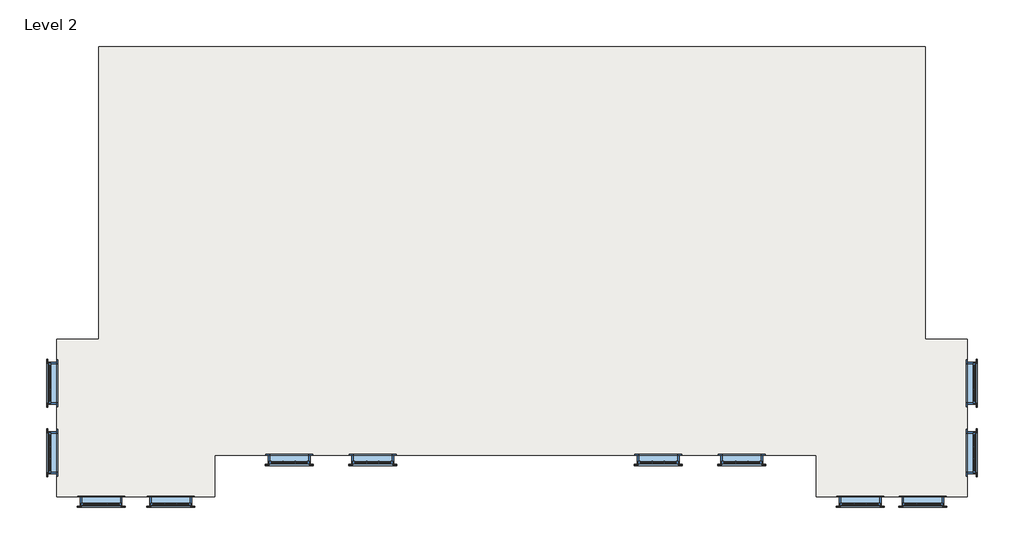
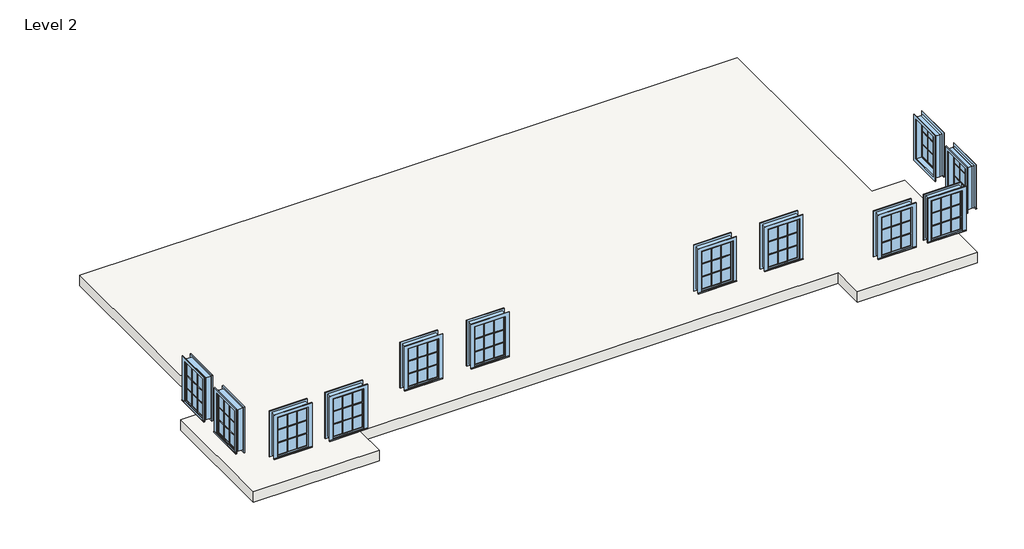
# One storey: 12 windows, 1 slab.
"""IFC4 building model written with IfcOpenShell, lengths in millimetres."""

import ifcopenshell
import ifcopenshell.guid

model = None  # the IFC model being written
_history = None  # IfcOwnerHistory: only IFC2X3 demands one
_inside = {}  # id of a spatial element -> (the spatial element, [elements in it])
_under = {}  # id of a project, library or spatial element -> (it, [spatial elements below it])
_declared = {}  # id of a project -> (the project, [libraries it declares])
_typed = {}  # id of a type object -> (the type object, [elements of that type])
_made_of = {}  # id of a material, layer set ... -> (it, [elements and type objects made of it])


def new_model(schema):
    """Start an empty IFC model of exactly this schema.

    Asked for "IFC4X3", IfcOpenShell would pick the latest addendum, in which some entities
    have other attributes; the version numbers below select the first issue.
    IFC2X3 requires an IfcOwnerHistory on every rooted entity: one is made here for all.
    """
    global model, _history
    if schema == "IFC4X3":
        model = ifcopenshell.file(schema_version=(4, 3, 0, 0))
    else:
        model = ifcopenshell.file(schema=schema)
    _inside.clear()
    _under.clear()
    _declared.clear()
    _typed.clear()
    _made_of.clear()
    _history = None
    if model.schema == "IFC2X3":
        org = make("IfcOrganization", Name="unknown")
        user = make(
            "IfcPersonAndOrganization",
            ThePerson=make("IfcPerson", FamilyName="unknown"),
            TheOrganization=org,
        )
        app = make(
            "IfcApplication",
            ApplicationDeveloper=org,
            Version="unknown",
            ApplicationFullName="unknown",
            ApplicationIdentifier="unknown",
        )
        _history = make(
            "IfcOwnerHistory",
            OwningUser=user,
            OwningApplication=app,
            ChangeAction="ADDED",
            CreationDate=0,
        )
    return model


def make(cls, **values):
    """One entity of the class cls with the attributes given. An attribute that is None is left unset."""
    return model.create_entity(
        cls, **{name: value for name, value in values.items() if value is not None}
    )


def rooted(cls, **values):
    """An entity with a GlobalId (a new one), such as an element, a storey or a relation."""
    return make(cls, GlobalId=ifcopenshell.guid.new(), OwnerHistory=_history, **values)


def si_unit(unit_type, name, prefix=None):
    """IfcSIUnit, for example si_unit("LENGTHUNIT", "METRE", prefix="MILLI")."""
    return make("IfcSIUnit", UnitType=unit_type, Prefix=prefix, Name=name)


def assignment(units):
    """IfcUnitAssignment: the units of a project."""
    return None if units is None else make("IfcUnitAssignment", Units=units)


def point(xyz):
    """IfcCartesianPoint."""
    return None if xyz is None else make("IfcCartesianPoint", Coordinates=xyz)


def direction(xyz):
    """IfcDirection."""
    return None if xyz is None else make("IfcDirection", DirectionRatios=xyz)


def frame(location, z_axis=None, x_axis=None):
    """IfcAxis2Placement3D, a coordinate frame: its origin and axes. An axis left out is left unset."""
    return make(
        "IfcAxis2Placement3D",
        Location=point(location),
        Axis=direction(z_axis),
        RefDirection=direction(x_axis),
    )


def origin():
    """The frame at (0, 0, 0) with its axes left unset."""
    return frame((0.0, 0.0, 0.0))


def place(relative_to, where):
    """IfcLocalPlacement: puts the frame where relative to a parent placement (None: the world)."""
    return make(
        "IfcLocalPlacement", PlacementRelTo=relative_to, RelativePlacement=where
    )


def context(
    kind, dimensions, precision=None, world=None, true_north=None, identifier=None
):
    """IfcGeometricRepresentationContext, for example the 3D "Model" context."""
    return make(
        "IfcGeometricRepresentationContext",
        ContextIdentifier=identifier,
        ContextType=kind,
        CoordinateSpaceDimension=dimensions,
        Precision=precision,
        WorldCoordinateSystem=world,
        TrueNorth=true_north,
    )


def project(units=None, contexts=None):
    """IfcProject with its units and contexts."""
    return rooted(
        "IfcProject",
        Name="project",
        RepresentationContexts=contexts,
        UnitsInContext=assignment(units),
    )


def spatial(cls, under=None, at=None, **own):
    """A site, building, storey or space (cls), placed at a placement, below another one or the project."""
    s = rooted(cls, ObjectPlacement=at, **own)
    if under is not None:
        _under.setdefault(under.id(), (under, []))[1].append(s)
    return s


def polyline(points):
    """IfcPolyline through the points."""
    return make("IfcPolyline", Points=[point(p) for p in points])


def outline(outer, holes=None, kind="AREA"):
    """IfcArbitraryClosedProfileDef: a profile drawn as a closed curve; with holes, ...WithVoids."""
    if holes is None:
        return make("IfcArbitraryClosedProfileDef", ProfileType=kind, OuterCurve=outer)
    return make(
        "IfcArbitraryProfileDefWithVoids",
        ProfileType=kind,
        OuterCurve=outer,
        InnerCurves=holes,
    )


def extrude(swept, where, along, depth):
    """IfcExtrudedAreaSolid: the profile swept, set in the frame where, extruded along a direction by depth."""
    return make(
        "IfcExtrudedAreaSolid",
        SweptArea=swept,
        Position=where,
        ExtrudedDirection=direction(along),
        Depth=depth,
    )


def shape(context_of_items, identifier, shape_type, items):
    """IfcShapeRepresentation: the items that make up one representation, for example the "Body"."""
    return make(
        "IfcShapeRepresentation",
        ContextOfItems=context_of_items,
        RepresentationIdentifier=identifier,
        RepresentationType=shape_type,
        Items=items,
    )


def source(mapping_origin, context_of_items, identifier, shape_type, items):
    """IfcRepresentationMap: a shape defined once, which mapped items show again and again."""
    return make(
        "IfcRepresentationMap",
        MappingOrigin=mapping_origin,
        MappedRepresentation=shape(context_of_items, identifier, shape_type, items),
    )


def transform(
    local_origin,
    x_axis=None,
    y_axis=None,
    z_axis=None,
    scale=None,
    scale2=None,
    scale3=None,
    uniform=True,
):
    """IfcCartesianTransformationOperator3D, or its non-uniform kind. x_axis, y_axis, z_axis: its Axis1, 2, 3."""
    if uniform:
        return make(
            "IfcCartesianTransformationOperator3D",
            Axis1=direction(x_axis),
            Axis2=direction(y_axis),
            LocalOrigin=point(local_origin),
            Scale=scale,
            Axis3=direction(z_axis),
        )
    return make(
        "IfcCartesianTransformationOperator3DnonUniform",
        Axis1=direction(x_axis),
        Axis2=direction(y_axis),
        LocalOrigin=point(local_origin),
        Scale=scale,
        Axis3=direction(z_axis),
        Scale2=scale2,
        Scale3=scale3,
    )


def mapped(mapping_source, mapping_target):
    """IfcMappedItem: shows the shape of a source again, moved by a transform."""
    return make(
        "IfcMappedItem", MappingSource=mapping_source, MappingTarget=mapping_target
    )


def made_of(thing, what):
    """Note that an element or type object is made of a material, layer set ...; save() writes the relation."""
    if what is not None:
        _made_of.setdefault(what.id(), (what, []))[1].append(thing)
    return thing


def element(
    cls,
    number,
    at=None,
    inside=None,
    cuts=None,
    type_object=None,
    material=None,
    context=None,
    identifier="Body",
    shape_type=None,
    held_by="IfcProductDefinitionShape",
    body=None,
    shapes=None,
    **own,
):
    """One element of the class cls, such as IfcWall. Its Tag is "e" and its number.

    at: its placement. inside: the storey or other place that contains it. cuts: it is an
    opening in that element (IfcRelVoidsElement). A single representation is given by context,
    identifier, shape_type and body (its items); several are given by shapes. held_by: the class
    of the entity that holds the representations. save() writes the other relations.
    """
    e = rooted(cls, Tag="e%d" % number, ObjectPlacement=at, **own)
    if body is not None:
        shapes = [shape(context, identifier, shape_type, body)]
    if shapes is not None:
        e.Representation = make(held_by, Representations=shapes)
    if inside is not None:
        _inside.setdefault(inside.id(), (inside, []))[1].append(e)
    if cuts is not None:
        rooted(
            "IfcRelVoidsElement", RelatingBuildingElement=cuts, RelatedOpeningElement=e
        )
    if type_object is not None:
        _typed.setdefault(type_object.id(), (type_object, []))[1].append(e)
    return made_of(e, material)


def aggregate(whole, parts):
    """IfcRelAggregates: a whole, such as a stair, and the parts it consists of."""
    return rooted("IfcRelAggregates", RelatingObject=whole, RelatedObjects=parts)


def save(model, path):
    """Write the relations noted so far, then the file.

    IfcRelAggregates (storeys below a building ...), IfcRelContainedInSpatialStructure (elements
    in a storey), IfcRelDefinesByType, IfcRelAssociatesMaterial and IfcRelDeclares: one each for
    every whole, place, type object, material and project.
    """
    for whole, parts in _under.values():
        aggregate(whole, parts)
    for where, things in _inside.values():
        rooted(
            "IfcRelContainedInSpatialStructure",
            RelatedElements=things,
            RelatingStructure=where,
        )
    for kind, things in _typed.values():
        rooted("IfcRelDefinesByType", RelatedObjects=things, RelatingType=kind)
    for what, things in _made_of.values():
        rooted("IfcRelAssociatesMaterial", RelatedObjects=things, RelatingMaterial=what)
    for by, libraries in _declared.values():
        rooted("IfcRelDeclares", RelatingContext=by, RelatedDefinitions=libraries)
    model.write(path)


def casement_3x3_with_trim_29c06734(model_context):
    return source(origin(), model_context, "Body", "SweptSolid", [
        extrude(outline(polyline([(-527.05, 127.0), (527.05, 127.0), (527.05, 101.6), (-527.05, 101.6), (-527.05, 127.0)])), frame((0.0, 0.0, 914.4), z_axis=(0.0, 0.0, 1.0), x_axis=(1.0, 0.0, 0.0)), (0.0, 0.0, 1.0), 19.05),
        extrude(outline(polyline([(2114.55, -438.15), (2114.55, 438.15), (933.45, 438.15), (933.45, 527.05), (2203.45, 527.05), (2203.45, -527.05), (933.45, -527.05), (933.45, -438.15), (2114.55, -438.15)])), frame((0.0, 101.6, 0.0), z_axis=(0.0, 1.0, 0.0), x_axis=(0.0, 0.0, 1.0)), (0.0, 0.0, 1.0), 12.7),
        extrude(outline(polyline([(143.9333333, 66.675), (393.7, 66.675), (393.7, 53.975), (143.9333333, 53.975), (143.9333333, 66.675)])), frame((0.0, 0.0, 1718.7333333), z_axis=(0.0, 0.0, 1.0), x_axis=(1.0, 0.0, 0.0)), (0.0, 0.0, 1.0), 351.3666667),
        extrude(outline(polyline([(-124.8833333, 66.675), (124.8833333, 66.675), (124.8833333, 53.975), (-124.8833333, 53.975), (-124.8833333, 66.675)])), frame((0.0, 0.0, 1718.7333333), z_axis=(0.0, 0.0, 1.0), x_axis=(1.0, 0.0, 0.0)), (0.0, 0.0, 1.0), 351.3666667),
        extrude(outline(polyline([(-393.7, 66.675), (-143.9333333, 66.675), (-143.9333333, 53.975), (-393.7, 53.975), (-393.7, 66.675)])), frame((0.0, 0.0, 1718.7333333), z_axis=(0.0, 0.0, 1.0), x_axis=(1.0, 0.0, 0.0)), (0.0, 0.0, 1.0), 351.3666667),
        extrude(outline(polyline([(-393.7, 66.675), (-143.9333333, 66.675), (-143.9333333, 53.975), (-393.7, 53.975), (-393.7, 66.675)])), frame((0.0, 0.0, 1348.3166667), z_axis=(0.0, 0.0, 1.0), x_axis=(1.0, 0.0, 0.0)), (0.0, 0.0, 1.0), 351.3666667),
        extrude(outline(polyline([(-124.8833333, 66.675), (124.8833333, 66.675), (124.8833333, 53.975), (-124.8833333, 53.975), (-124.8833333, 66.675)])), frame((0.0, 0.0, 1348.3166667), z_axis=(0.0, 0.0, 1.0), x_axis=(1.0, 0.0, 0.0)), (0.0, 0.0, 1.0), 351.3666667),
        extrude(outline(polyline([(143.9333333, 66.675), (393.7, 66.675), (393.7, 53.975), (143.9333333, 53.975), (143.9333333, 66.675)])), frame((0.0, 0.0, 1348.3166667), z_axis=(0.0, 0.0, 1.0), x_axis=(1.0, 0.0, 0.0)), (0.0, 0.0, 1.0), 351.3666667),
        extrude(outline(polyline([(143.9333333, 66.675), (393.7, 66.675), (393.7, 53.975), (143.9333333, 53.975), (143.9333333, 66.675)])), frame((0.0, 0.0, 977.9), z_axis=(0.0, 0.0, 1.0), x_axis=(1.0, 0.0, 0.0)), (0.0, 0.0, 1.0), 351.3666667),
        extrude(outline(polyline([(-124.8833333, 66.675), (124.8833333, 66.675), (124.8833333, 53.975), (-124.8833333, 53.975), (-124.8833333, 66.675)])), frame((0.0, 0.0, 977.9), z_axis=(0.0, 0.0, 1.0), x_axis=(1.0, 0.0, 0.0)), (0.0, 0.0, 1.0), 351.3666667),
        extrude(outline(polyline([(-393.7, 66.675), (-143.9333333, 66.675), (-143.9333333, 53.975), (-393.7, 53.975), (-393.7, 66.675)])), frame((0.0, 0.0, 977.9), z_axis=(0.0, 0.0, 1.0), x_axis=(1.0, 0.0, 0.0)), (0.0, 0.0, 1.0), 351.3666667),
        extrude(outline(polyline([(2190.75, 514.35), (2190.75, -514.35), (857.25, -514.35), (857.25, 514.35), (2190.75, 514.35)]), holes=[polyline([(2101.85, 425.45), (946.15, 425.45), (946.15, -425.45), (2101.85, -425.45), (2101.85, 425.45)])]), frame((0.0, -120.65, 0.0), z_axis=(0.0, 1.0, 0.0), x_axis=(0.0, 0.0, 1.0)), (0.0, 0.0, 1.0), 19.05),
        extrude(outline(polyline([(2114.55, -438.15), (933.45, -438.15), (933.45, 438.15), (2114.55, 438.15), (2114.55, -438.15)]), holes=[polyline([(2070.1, -143.9333333), (1718.7333333, -143.9333333), (1718.7333333, -393.7), (2070.1, -393.7), (2070.1, -143.9333333)]), polyline([(1699.6833333, -143.9333333), (1348.3166667, -143.9333333), (1348.3166667, -393.7), (1699.6833333, -393.7), (1699.6833333, -143.9333333)]), polyline([(1329.2666667, -143.9333333), (977.9, -143.9333333), (977.9, -393.7), (1329.2666667, -393.7), (1329.2666667, -143.9333333)]), polyline([(2070.1, 124.8833333), (1718.7333333, 124.8833333), (1718.7333333, -124.8833333), (2070.1, -124.8833333), (2070.1, 124.8833333)]), polyline([(1699.6833333, 124.8833333), (1348.3166667, 124.8833333), (1348.3166667, -124.8833333), (1699.6833333, -124.8833333), (1699.6833333, 124.8833333)]), polyline([(1329.2666667, 124.8833333), (977.9, 124.8833333), (977.9, -124.8833333), (1329.2666667, -124.8833333), (1329.2666667, 124.8833333)]), polyline([(2070.1, 393.7), (1718.7333333, 393.7), (1718.7333333, 143.9333333), (2070.1, 143.9333333), (2070.1, 393.7)]), polyline([(1699.6833333, 393.7), (1348.3166667, 393.7), (1348.3166667, 143.9333333), (1699.6833333, 143.9333333), (1699.6833333, 393.7)]), polyline([(1329.2666667, 393.7), (977.9, 393.7), (977.9, 143.9333333), (1329.2666667, 143.9333333), (1329.2666667, 393.7)])]), frame((0.0, 38.1, 0.0), z_axis=(0.0, 1.0, 0.0), x_axis=(0.0, 0.0, 1.0)), (0.0, 0.0, 1.0), 44.45),
        extrude(outline(polyline([(2133.6, -457.2), (914.4, -457.2), (914.4, 457.2), (2133.6, 457.2), (2133.6, -457.2)]), holes=[polyline([(2101.85, -425.45), (2101.85, 425.45), (946.15, 425.45), (946.15, -425.45), (2101.85, -425.45)])]), frame((0.0, -101.6, 0.0), z_axis=(0.0, 1.0, 0.0), x_axis=(0.0, 0.0, 1.0)), (0.0, 0.0, 1.0), 139.7),
        extrude(outline(polyline([(2133.6, 457.2), (2133.6, -457.2), (914.4, -457.2), (914.4, 457.2), (2133.6, 457.2)]), holes=[polyline([(2114.55, 438.15), (933.45, 438.15), (933.45, -438.15), (2114.55, -438.15), (2114.55, 438.15)])]), frame((0.0, 38.1, 0.0), z_axis=(0.0, 1.0, 0.0), x_axis=(0.0, 0.0, 1.0)), (0.0, 0.0, 1.0), 63.5),
    ])


model = new_model("IFC4")

# Units and contexts
model_context = context("Model", 3, world=origin())
ifc_project = project(units=[si_unit("LENGTHUNIT", "METRE", prefix="MILLI")], contexts=[model_context])

# Site, building, storey
site = spatial("IfcSite", under=ifc_project)
building = spatial("IfcBuilding", under=site)
storey = spatial("IfcBuildingStorey", under=building, Name="Level 2", Elevation=3505.2)

# Slab
placement = place(None, origin())
element("IfcSlab", 1, ObjectType="Generic - 12\"", at=placement, inside=storey, context=model_context, shape_type="SweptSolid", body=[
    extrude(outline(polyline([(-177198.5354666, 9625.4757393), (-176284.1354666, 9625.4757393), (-176284.1354666, 16026.2757393), (-158199.3354666, 16026.2757393), (-158199.3354666, 9625.4757393), (-157284.9354666, 9625.4757393), (-157284.9354666, 6171.0757393), (-160586.9354666, 6171.0757393), (-160586.9354666, 7085.4757393), (-173744.1354666, 7085.4757393), (-173744.1354666, 6171.0757393), (-177198.5354666, 6171.0757393), (-177198.5354666, 9625.4757393)])), frame((0.0, 0.0, 3200.4), z_axis=(0.0, 0.0, 1.0), x_axis=(1.0, 0.0, 0.0)), (0.0, 0.0, 1.0), 304.8),
])

# Windows
casement_3x3_with_trim_shape = casement_3x3_with_trim_29c06734(model_context)
element("IfcWindow", 2, ObjectType="Casement 3x3 with Trim : 36\"w x 48\"h", at=placement, inside=storey, context=model_context, shape_type="MappedRepresentation", body=[
    mapped(casement_3x3_with_trim_shape, transform((-176233.3354666, 6069.4757393, 3505.2), x_axis=(-1.0, 0.0, 0.0), y_axis=(0.0, -1.0, 0.0), z_axis=(0.0, 0.0, 1.0))),
])
element("IfcWindow", 3, ObjectType="Casement 3x3 with Trim : 36\"w x 48\"h", at=placement, inside=storey, context=model_context, shape_type="MappedRepresentation", body=[
    mapped(casement_3x3_with_trim_shape, transform((-174709.3354666, 6069.4757393, 3505.2), x_axis=(-1.0, 0.0, 0.0), y_axis=(0.0, -1.0, 0.0), z_axis=(0.0, 0.0, 1.0))),
])
element("IfcWindow", 4, ObjectType="Casement 3x3 with Trim : 36\"w x 48\"h", at=placement, inside=storey, context=model_context, shape_type="MappedRepresentation", body=[
    mapped(casement_3x3_with_trim_shape, transform((-172118.5354666, 6983.8757393, 3505.2), x_axis=(-1.0, 0.0, 0.0), y_axis=(0.0, -1.0, 0.0), z_axis=(0.0, 0.0, 1.0))),
])
element("IfcWindow", 5, ObjectType="Casement 3x3 with Trim : 36\"w x 48\"h", at=placement, inside=storey, context=model_context, shape_type="MappedRepresentation", body=[
    mapped(casement_3x3_with_trim_shape, transform((-170289.7354666, 6983.8757393, 3505.2), x_axis=(-1.0, 0.0, 0.0), y_axis=(0.0, -1.0, 0.0), z_axis=(0.0, 0.0, 1.0))),
])
element("IfcWindow", 6, ObjectType="Casement 3x3 with Trim : 36\"w x 48\"h", at=placement, inside=storey, context=model_context, shape_type="MappedRepresentation", body=[
    mapped(casement_3x3_with_trim_shape, transform((-164041.3354666, 6983.8757393, 3505.2), x_axis=(-1.0, 0.0, 0.0), y_axis=(0.0, -1.0, 0.0), z_axis=(0.0, 0.0, 1.0))),
])
element("IfcWindow", 7, ObjectType="Casement 3x3 with Trim : 36\"w x 48\"h", at=placement, inside=storey, context=model_context, shape_type="MappedRepresentation", body=[
    mapped(casement_3x3_with_trim_shape, transform((-162212.5354666, 6983.8757393, 3505.2), x_axis=(-1.0, 0.0, 0.0), y_axis=(0.0, -1.0, 0.0), z_axis=(0.0, 0.0, 1.0))),
])
element("IfcWindow", 8, ObjectType="Casement 3x3 with Trim : 36\"w x 48\"h", at=placement, inside=storey, context=model_context, shape_type="MappedRepresentation", body=[
    mapped(casement_3x3_with_trim_shape, transform((-159621.7354666, 6069.4757393, 3505.2), x_axis=(-1.0, 0.0, 0.0), y_axis=(0.0, -1.0, 0.0), z_axis=(0.0, 0.0, 1.0))),
])
element("IfcWindow", 9, ObjectType="Casement 3x3 with Trim : 36\"w x 48\"h", at=placement, inside=storey, context=model_context, shape_type="MappedRepresentation", body=[
    mapped(casement_3x3_with_trim_shape, transform((-158250.1354666, 6069.4757393, 3505.2), x_axis=(-1.0, 0.0, 0.0), y_axis=(0.0, -1.0, 0.0), z_axis=(0.0, 0.0, 1.0))),
])
element("IfcWindow", 10, ObjectType="Casement 3x3 with Trim : 36\"w x 48\"h", at=placement, inside=storey, context=model_context, shape_type="MappedRepresentation", body=[
    mapped(casement_3x3_with_trim_shape, transform((-157183.3354666, 7136.2757393, 3505.2), x_axis=(0.0, -1.0, 0.0), y_axis=(1.0, 0.0, 0.0), z_axis=(0.0, 0.0, 1.0))),
])
element("IfcWindow", 11, ObjectType="Casement 3x3 with Trim : 36\"w x 48\"h", at=placement, inside=storey, context=model_context, shape_type="MappedRepresentation", body=[
    mapped(casement_3x3_with_trim_shape, transform((-157183.3354666, 8660.2757393, 3505.2), x_axis=(0.0, -1.0, 0.0), y_axis=(1.0, 0.0, 0.0), z_axis=(0.0, 0.0, 1.0))),
])
element("IfcWindow", 12, ObjectType="Casement 3x3 with Trim : 36\"w x 48\"h", at=placement, inside=storey, context=model_context, shape_type="MappedRepresentation", body=[
    mapped(casement_3x3_with_trim_shape, transform((-177300.1354666, 7136.2757393, 3505.2), x_axis=(0.0, 1.0, 0.0), y_axis=(-1.0, 0.0, 0.0), z_axis=(0.0, 0.0, 1.0))),
])
element("IfcWindow", 13, ObjectType="Casement 3x3 with Trim : 36\"w x 48\"h", at=placement, inside=storey, context=model_context, shape_type="MappedRepresentation", body=[
    mapped(casement_3x3_with_trim_shape, transform((-177300.1354666, 8660.2757393, 3505.2), x_axis=(0.0, 1.0, 0.0), y_axis=(-1.0, 0.0, 0.0), z_axis=(0.0, 0.0, 1.0))),
])

save(model, "model.ifc")
